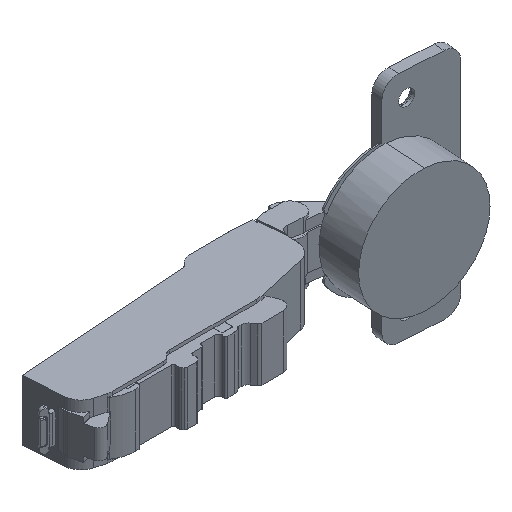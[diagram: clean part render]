
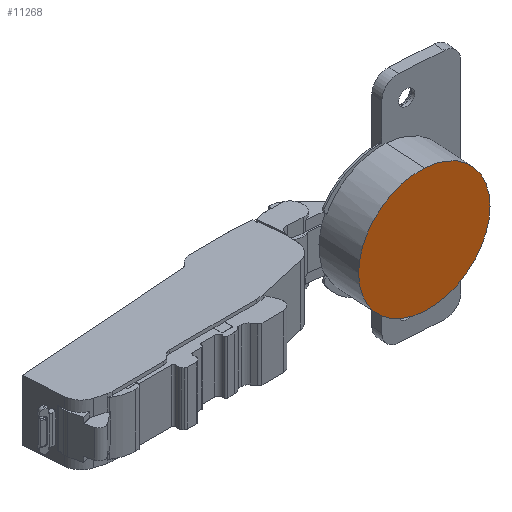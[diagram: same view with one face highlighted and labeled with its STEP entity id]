
A CAD part, isometric view. The second image highlights one B-rep face of the part: STEP entity #11268.
In plain terms, the highlighted planar face has unit normal (-0.061, -0.998, 0).
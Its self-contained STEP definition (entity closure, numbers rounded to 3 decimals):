
#2322 = DIRECTION ( 'NONE',  ( 0.998, -0.061, 0. ) ) ;
#2422 = VERTEX_POINT ( 'NONE', #4182 ) ;
#2747 = EDGE_CURVE ( 'NONE', #2422, #4585, #10326, .T. ) ;
#2760 = PLANE ( 'NONE',  #4931 ) ;
#3232 = AXIS2_PLACEMENT_3D ( 'NONE', #3422, #6711, #2322 ) ;
#3422 = CARTESIAN_POINT ( 'NONE',  ( 62.031, 7.154, 0. ) ) ;
#4182 = CARTESIAN_POINT ( 'NONE',  ( 62.031, 7.154, -17.45 ) ) ;
#4585 = VERTEX_POINT ( 'NONE', #8149 ) ;
#4909 = CIRCLE ( 'NONE', #3232, 17.45 ) ;
#4931 = AXIS2_PLACEMENT_3D ( 'NONE', #10486, #10545, #11401 ) ;
#5357 = AXIS2_PLACEMENT_3D ( 'NONE', #11095, #7582, #9325 ) ;
#6216 = FACE_OUTER_BOUND ( 'NONE', #9903, .T. ) ;
#6711 = DIRECTION ( 'NONE',  ( -0.061, -0.998, 0. ) ) ;
#7582 = DIRECTION ( 'NONE',  ( -0.061, -0.998, 0. ) ) ;
#8149 = CARTESIAN_POINT ( 'NONE',  ( 62.031, 7.154, 17.45 ) ) ;
#9325 = DIRECTION ( 'NONE',  ( 0.998, -0.061, 0. ) ) ;
#9378 = EDGE_CURVE ( 'NONE', #4585, #2422, #4909, .T. ) ;
#9903 = EDGE_LOOP ( 'NONE', ( #11149, #10031 ) ) ;
#10031 = ORIENTED_EDGE ( 'NONE', *, *, #2747, .T. ) ;
#10326 = CIRCLE ( 'NONE', #5357, 17.45 ) ;
#10486 = CARTESIAN_POINT ( 'NONE',  ( 74.308, 6.403, -5.564 ) ) ;
#10545 = DIRECTION ( 'NONE',  ( 0.061, 0.998, 0. ) ) ;
#11095 = CARTESIAN_POINT ( 'NONE',  ( 62.031, 7.154, 0. ) ) ;
#11149 = ORIENTED_EDGE ( 'NONE', *, *, #9378, .T. ) ;
#11268 = ADVANCED_FACE ( 'NONE', ( #6216 ), #2760, .F. ) ;
#11401 = DIRECTION ( 'NONE',  ( -0.998, 0.061, 0. ) ) ;
